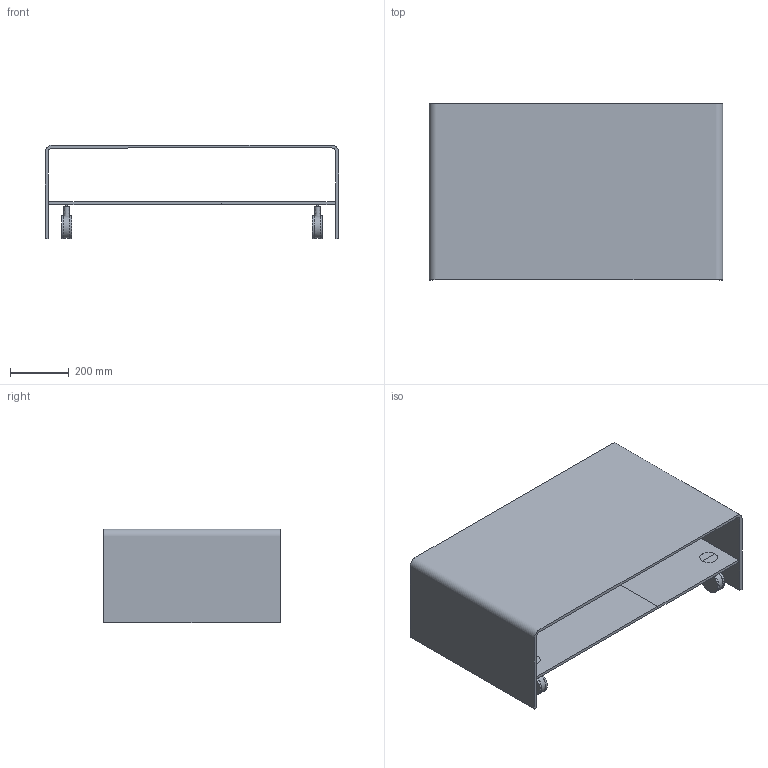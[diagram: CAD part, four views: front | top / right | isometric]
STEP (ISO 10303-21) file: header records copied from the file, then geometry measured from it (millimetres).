
FILE_DESCRIPTION(/* description */ (''),/* implementation_level */ '2;1');
FILE_NAME(/* name */ '0171 - Rialto Moving 100x60',/* time_stamp */ '2010-11-04T09:08:15+01:00',/* author */ (''),/* organization */ (''),/* preprocessor_version */ 'ST-DEVELOPER v10',/* originating_system */ '',/* authorisation */ '');
FILE_SCHEMA (('CONFIG_CONTROL_DESIGN'));
Length unit declared in the file: centimetre
Products named in the file (1): 1
Bounding box: 1000 x 600 x 320 mm (x, y, z)
Volume: 13038475.7 mm3; surface area: 3387730.9 mm2
Topology: 18 solids, 18 shells, 144 faces, 272 edges, 156 vertices
Faces by surface type: bspline 98, plane 46
Entity records: 3960 total; most frequent: CARTESIAN_POINT 2196, ORIENTED_EDGE 512, EDGE_CURVE 256, VERTEX_POINT 156, EDGE_LOOP 152, ADVANCED_FACE 144, FACE_OUTER_BOUND 144, B_SPLINE_CURVE_WITH_KNOTS 128
